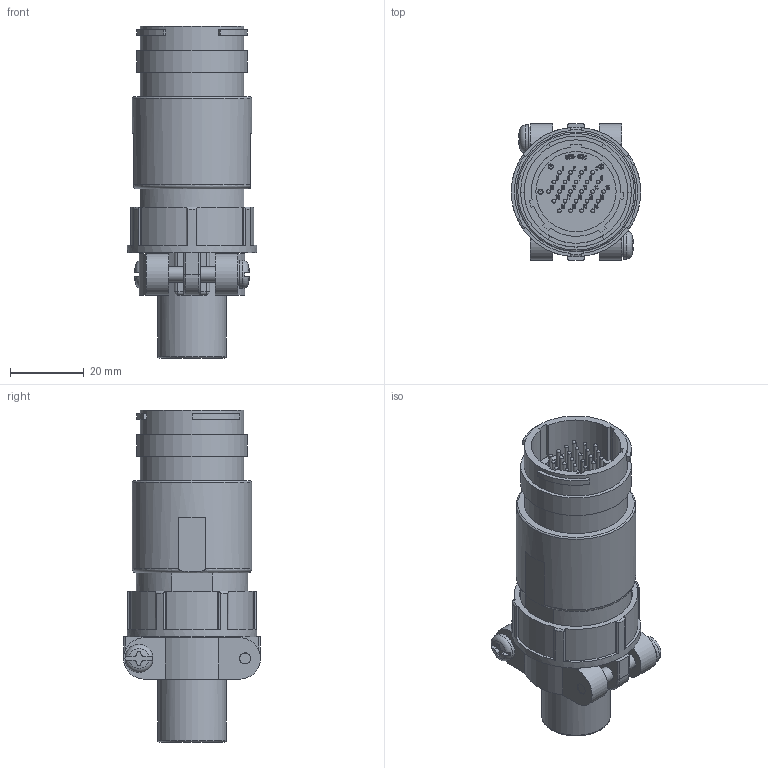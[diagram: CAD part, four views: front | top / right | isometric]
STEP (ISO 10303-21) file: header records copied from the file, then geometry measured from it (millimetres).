
FILE_DESCRIPTION (( 'STEP AP203' ), '1' );
FILE_NAME ('WEBCR2524M-1-D(R1).STEP', '2021-08-05T02:09:22', ( '' ), ( '' ), 'SwSTEP 2.0', 'SolidWorks 2018', '' );
FILE_SCHEMA (( 'CONFIG_CONTROL_DESIGN' ));
Length unit declared in the file: millimetre
Products named in the file (1): WEBCR2524M-1-D(R1)
Bounding box: 35 x 37 x 89.8 mm (x, y, z)
Volume: 34284 mm3; surface area: 22469 mm2
Topology: 1 solids, 1 shells, 2018 faces, 5559 edges, 3661 vertices
Faces by surface type: bspline 865, plane 856, cylinder 215, cone 32, sphere 32, torus 18
Full cylindrical faces by diameter (mm): 1 x24, 1.1 x24, 1.2 x4, 1.4 x4, 1.55 x24, 2.8 x2, 3 x2, 4.1 x2, 4.3 x4, 7.6 x2, 16.03 x2, 17.8 x1, 18.64 x1, 19 x1, 21.3 x1, 21.7 x1, 23.2 x1, 23.6 x1, 27.96 x1, 28 x1, 30 x1, 30.5 x1, 32.3 x1, 35 x1
Entity records: 92264 total; most frequent: CARTESIAN_POINT 48189, ORIENTED_EDGE 10478, DIRECTION 6176, EDGE_CURVE 5239, VERTEX_POINT 3541, LINE 2954, VECTOR 2954, EDGE_LOOP 2360
